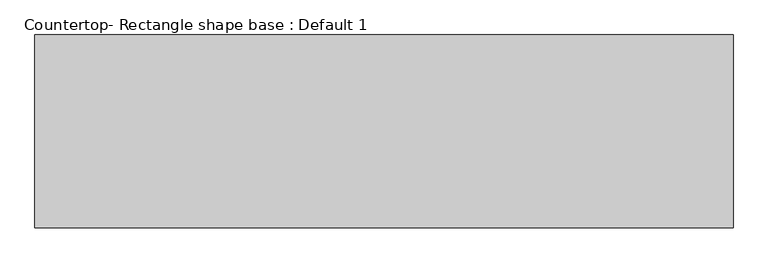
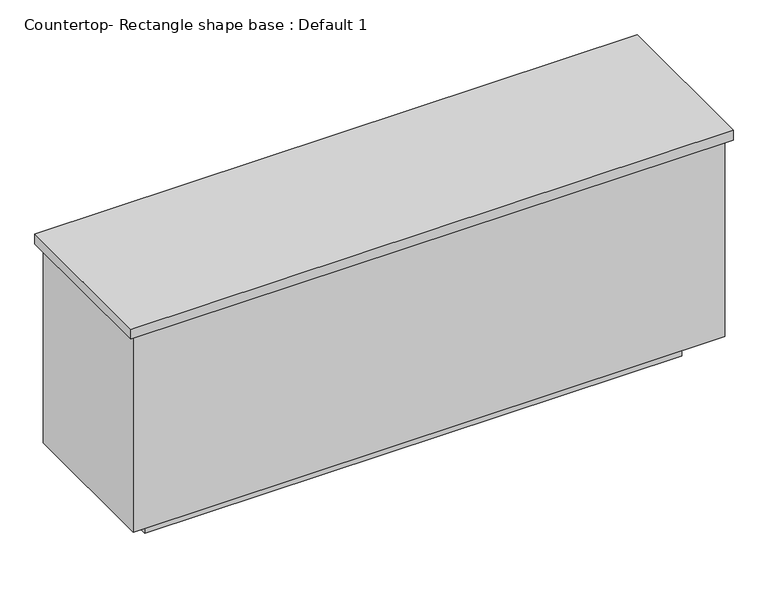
"""IFC4 building model written with IfcOpenShell, lengths in millimetres: proxy geometry, Countertop- Rectangle shape base : Default 1."""

from ifc_helpers import new_model, si_unit, frame, origin, origin_with_axes, place, context, project, spatial, polyline, outline, extrude, source, transform, mapped, element, save


def countertop_rectangle_shape_base_default_1_e5a6cc63(model_context):
    return source(origin(), model_context, "Body", "SweptSolid", [
        extrude(outline(polyline([(-352.425, 73.025), (-352.425, 688.975), (1876.425, 688.975), (1876.425, 73.025), (-352.425, 73.025)])), frame((0.0, 0.0, 876.3), z_axis=(0.0, 0.0, 1.0), x_axis=(1.0, 0.0, 0.0)), (0.0, 0.0, 1.0), 38.1),
        extrude(outline(polyline([(1857.375, 669.925), (1857.375, 92.075), (-333.375, 92.075), (-333.375, 669.925), (1857.375, 669.925)])), frame((0.0, 0.0, 101.6), z_axis=(0.0, 0.0, 1.0), x_axis=(1.0, 0.0, 0.0)), (0.0, 0.0, 1.0), 774.7),
        extrude(outline(polyline([(1755.775, 568.325), (1755.775, 193.675), (-231.775, 193.675), (-231.775, 568.325), (1755.775, 568.325)])), origin_with_axes(), (0.0, 0.0, 1.0), 101.6),
    ])


if __name__ == "__main__":
    model = new_model("IFC4")
    model_context = context("Model", 3, world=origin())
    ifc_project = project(units=[si_unit("LENGTHUNIT", "METRE", prefix="MILLI")], contexts=[model_context])
    site = spatial("IfcSite", under=ifc_project)
    building = spatial("IfcBuilding", under=site)
    placement = place(None, origin())
    countertop_rectangle_shape_base_default_1_shape = countertop_rectangle_shape_base_default_1_e5a6cc63(model_context)
    element("IfcBuildingElementProxy", 1, Name="Countertop- Rectangle shape base : Default 1", ObjectType="Countertop- Rectangle shape base : Default 1", at=placement, inside=building, context=model_context, shape_type="MappedRepresentation", body=[
        mapped(countertop_rectangle_shape_base_default_1_shape, transform((0.0, 0.0, 0.0), x_axis=(1.0, 0.0, 0.0), y_axis=(0.0, 1.0, 0.0), z_axis=(0.0, 0.0, 1.0))),
    ])
    save(model, "model.ifc")
